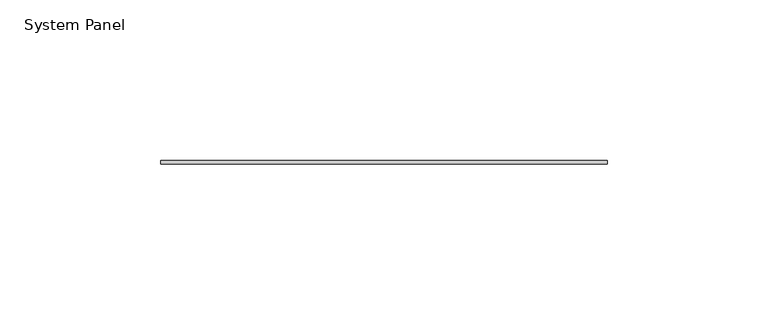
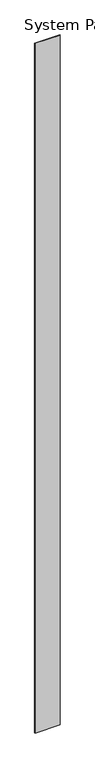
"""IFC4 building model written with IfcOpenShell, lengths in millimetres: plate geometry, System Panel : Stratco_Hiland_Tray."""

from ifc_helpers import new_model, si_unit, origin, origin_with_axes, place, context, project, spatial, polyline, outline, extrude, source, transform, mapped, element, save


def system_panel_183a1439(model_context):
    return source(origin(), model_context, "Body", "SweptSolid", [
        extrude(outline(polyline([(69.3699777, 2.5), (-69.3699777, 2.5), (-69.3699777, 3.5), (69.3699777, 3.5), (69.3699777, 2.5)])), origin_with_axes(), (0.0, 0.0, 1.0), 4000.0),
    ])


if __name__ == "__main__":
    model = new_model("IFC4")
    model_context = context("Model", 3, world=origin())
    ifc_project = project(units=[si_unit("LENGTHUNIT", "METRE", prefix="MILLI")], contexts=[model_context])
    site = spatial("IfcSite", under=ifc_project)
    building = spatial("IfcBuilding", under=site)
    placement = place(None, origin())
    system_panel_shape = system_panel_183a1439(model_context)
    element("IfcPlate", 1, ObjectType="System Panel : Stratco_Hiland_Tray", at=placement, inside=building, context=model_context, shape_type="MappedRepresentation", body=[
        mapped(system_panel_shape, transform((0.0, 0.0, 0.0), x_axis=(1.0, 0.0, 0.0), y_axis=(0.0, 1.0, 0.0), z_axis=(0.0, 0.0, 1.0))),
    ])
    save(model, "model.ifc")
